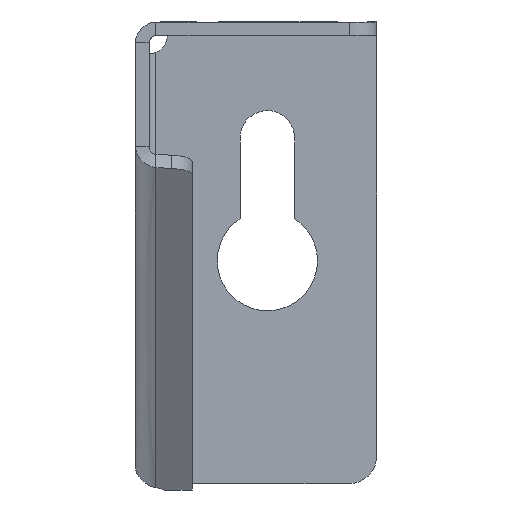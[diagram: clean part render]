
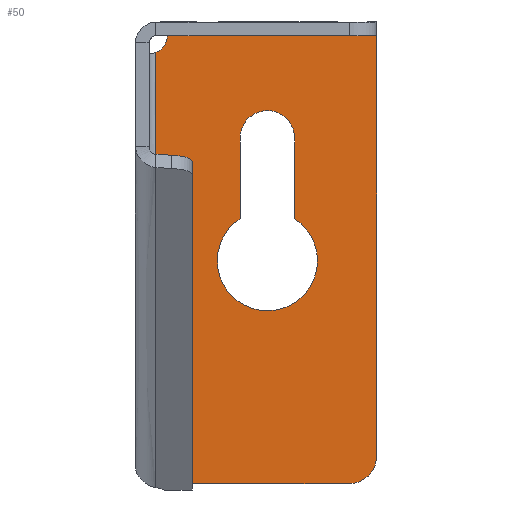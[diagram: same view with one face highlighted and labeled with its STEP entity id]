
A CAD part, front view. The second image highlights one B-rep face of the part: STEP entity #50.
In plain terms, the highlighted planar face has unit normal (0, -1, 0).
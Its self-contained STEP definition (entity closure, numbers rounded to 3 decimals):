
#17=FACE_BOUND('',#154,.T.);
#50=ADVANCED_FACE('',(#100,#17),#752,.T.);
#100=FACE_OUTER_BOUND('',#153,.T.);
#153=EDGE_LOOP('',(#330,#331,#332,#333,#334,#335,#336,#337,#338));
#154=EDGE_LOOP('',(#339,#340,#341,#342,#343));
#330=ORIENTED_EDGE('',*,*,#494,.F.);
#331=ORIENTED_EDGE('',*,*,#491,.F.);
#332=ORIENTED_EDGE('',*,*,#490,.F.);
#333=ORIENTED_EDGE('',*,*,#489,.F.);
#334=ORIENTED_EDGE('',*,*,#499,.F.);
#335=ORIENTED_EDGE('',*,*,#488,.F.);
#336=ORIENTED_EDGE('',*,*,#502,.F.);
#337=ORIENTED_EDGE('',*,*,#487,.F.);
#338=ORIENTED_EDGE('',*,*,#486,.F.);
#339=ORIENTED_EDGE('',*,*,#525,.F.);
#340=ORIENTED_EDGE('',*,*,#526,.F.);
#341=ORIENTED_EDGE('',*,*,#522,.F.);
#342=ORIENTED_EDGE('',*,*,#523,.F.);
#343=ORIENTED_EDGE('',*,*,#524,.F.);
#486=EDGE_CURVE('',#699,#700,#623,.T.);
#487=EDGE_CURVE('',#700,#701,#624,.T.);
#488=EDGE_CURVE('',#675,#668,#625,.T.);
#489=EDGE_CURVE('',#702,#703,#626,.T.);
#490=EDGE_CURVE('',#703,#704,#627,.T.);
#491=EDGE_CURVE('',#704,#705,#628,.T.);
#494=EDGE_CURVE('',#705,#699,#631,.T.);
#499=EDGE_CURVE('',#668,#702,#636,.T.);
#502=EDGE_CURVE('',#701,#675,#639,.T.);
#522=EDGE_CURVE('',#719,#720,#556,.T.);
#523=EDGE_CURVE('',#721,#719,#649,.T.);
#524=EDGE_CURVE('',#722,#721,#557,.T.);
#525=EDGE_CURVE('',#723,#722,#650,.T.);
#526=EDGE_CURVE('',#720,#723,#651,.T.);
#556=B_SPLINE_CURVE_WITH_KNOTS('',1,(#1619,#1620),.UNSPECIFIED.,.F.,.F.,
(2,2),(-8.89,0.),.UNSPECIFIED.);
#557=B_SPLINE_CURVE_WITH_KNOTS('',1,(#1626,#1627),.UNSPECIFIED.,.F.,.F.,
(2,2),(-8.89,0.),.UNSPECIFIED.);
#623=(
BOUNDED_CURVE()
B_SPLINE_CURVE(2,(#1506,#1507,#1508),.UNSPECIFIED.,.F.,.F.)
B_SPLINE_CURVE_WITH_KNOTS((3,3),(147.908,171.001),
 .UNSPECIFIED.)
CURVE()
GEOMETRIC_REPRESENTATION_ITEM()
RATIONAL_B_SPLINE_CURVE((1.,1.,1.))
REPRESENTATION_ITEM('')
);
#624=(
BOUNDED_CURVE()
B_SPLINE_CURVE(2,(#1509,#1510,#1511),.UNSPECIFIED.,.F.,.F.)
B_SPLINE_CURVE_WITH_KNOTS((3,3),(171.001,171.751),
 .UNSPECIFIED.)
CURVE()
GEOMETRIC_REPRESENTATION_ITEM()
RATIONAL_B_SPLINE_CURVE((1.,1.,1.))
REPRESENTATION_ITEM('')
);
#625=(
BOUNDED_CURVE()
B_SPLINE_CURVE(2,(#1512,#1513,#1514),.UNSPECIFIED.,.F.,.F.)
B_SPLINE_CURVE_WITH_KNOTS((3,3),(175.311,267.583),
 .UNSPECIFIED.)
CURVE()
GEOMETRIC_REPRESENTATION_ITEM()
RATIONAL_B_SPLINE_CURVE((1.,1.,1.))
REPRESENTATION_ITEM('')
);
#626=(
BOUNDED_CURVE()
B_SPLINE_CURVE(2,(#1515,#1516,#1517),.UNSPECIFIED.,.F.,.F.)
B_SPLINE_CURVE_WITH_KNOTS((3,3),(271.143,271.893),
 .UNSPECIFIED.)
CURVE()
GEOMETRIC_REPRESENTATION_ITEM()
RATIONAL_B_SPLINE_CURVE((1.,1.,1.))
REPRESENTATION_ITEM('')
);
#627=(
BOUNDED_CURVE()
B_SPLINE_CURVE(2,(#1518,#1519,#1520),.UNSPECIFIED.,.F.,.F.)
B_SPLINE_CURVE_WITH_KNOTS((3,3),(271.893,298.45),
 .UNSPECIFIED.)
CURVE()
GEOMETRIC_REPRESENTATION_ITEM()
RATIONAL_B_SPLINE_CURVE((1.,1.,1.))
REPRESENTATION_ITEM('')
);
#628=(
BOUNDED_CURVE()
B_SPLINE_CURVE(2,(#1521,#1522,#1523),.UNSPECIFIED.,.F.,.F.)
B_SPLINE_CURVE_WITH_KNOTS((3,3),(298.45,395.27),
 .UNSPECIFIED.)
CURVE()
GEOMETRIC_REPRESENTATION_ITEM()
RATIONAL_B_SPLINE_CURVE((1.,1.,1.))
REPRESENTATION_ITEM('')
);
#631=(
BOUNDED_CURVE()
B_SPLINE_CURVE(2,(#1528,#1529,#1530),.UNSPECIFIED.,.F.,.F.)
B_SPLINE_CURVE_WITH_KNOTS((3,3),(395.27,399.982),
 .UNSPECIFIED.)
CURVE()
GEOMETRIC_REPRESENTATION_ITEM()
RATIONAL_B_SPLINE_CURVE((1.,0.707,1.))
REPRESENTATION_ITEM('')
);
#636=(
BOUNDED_CURVE()
B_SPLINE_CURVE(2,(#1540,#1541,#1542,#1543,#1544),.UNSPECIFIED.,.F.,.F.)
B_SPLINE_CURVE_WITH_KNOTS((3,2,3),(267.583,267.609,271.143),
 .UNSPECIFIED.)
CURVE()
GEOMETRIC_REPRESENTATION_ITEM()
RATIONAL_B_SPLINE_CURVE((1.,1.,1.,0.831,1.))
REPRESENTATION_ITEM('')
);
#639=(
BOUNDED_CURVE()
B_SPLINE_CURVE(2,(#1552,#1553,#1554,#1555,#1556),.UNSPECIFIED.,.F.,.F.)
B_SPLINE_CURVE_WITH_KNOTS((3,2,3),(171.751,175.285,175.311),
 .UNSPECIFIED.)
CURVE()
GEOMETRIC_REPRESENTATION_ITEM()
RATIONAL_B_SPLINE_CURVE((1.,0.831,1.,1.,1.))
REPRESENTATION_ITEM('')
);
#649=(
BOUNDED_CURVE()
B_SPLINE_CURVE(2,(#1621,#1622,#1623,#1624,#1625),.UNSPECIFIED.,.F.,.F.)
B_SPLINE_CURVE_WITH_KNOTS((3,2,3),(-9.425,-4.712,0.),
 .UNSPECIFIED.)
CURVE()
GEOMETRIC_REPRESENTATION_ITEM()
RATIONAL_B_SPLINE_CURVE((1.,0.707,1.,0.707,1.))
REPRESENTATION_ITEM('')
);
#650=(
BOUNDED_CURVE()
B_SPLINE_CURVE(2,(#1628,#1629,#1630,#1631,#1632,#1633,#1634),
 .UNSPECIFIED.,.F.,.F.)
B_SPLINE_CURVE_WITH_KNOTS((3,2,2,3),(-34.558,-25.918,
-17.279,-11.868),.UNSPECIFIED.)
CURVE()
GEOMETRIC_REPRESENTATION_ITEM()
RATIONAL_B_SPLINE_CURVE((1.,0.707,1.,0.707,1.,0.879,
1.))
REPRESENTATION_ITEM('')
);
#651=(
BOUNDED_CURVE()
B_SPLINE_CURVE(2,(#1635,#1636,#1637),.UNSPECIFIED.,.F.,.F.)
B_SPLINE_CURVE_WITH_KNOTS((3,3),(-5.411,0.),.UNSPECIFIED.)
CURVE()
GEOMETRIC_REPRESENTATION_ITEM()
RATIONAL_B_SPLINE_CURVE((1.,0.879,1.))
REPRESENTATION_ITEM('')
);
#668=VERTEX_POINT('',#1218);
#675=VERTEX_POINT('',#1225);
#699=VERTEX_POINT('',#1249);
#700=VERTEX_POINT('',#1250);
#701=VERTEX_POINT('',#1251);
#702=VERTEX_POINT('',#1252);
#703=VERTEX_POINT('',#1253);
#704=VERTEX_POINT('',#1254);
#705=VERTEX_POINT('',#1255);
#719=VERTEX_POINT('',#1269);
#720=VERTEX_POINT('',#1270);
#721=VERTEX_POINT('',#1271);
#722=VERTEX_POINT('',#1272);
#723=VERTEX_POINT('',#1273);
#752=PLANE('',#882);
#882=AXIS2_PLACEMENT_3D('',#1184,#923,$);
#923=DIRECTION('',(0.,-1.,0.));
#1184=CARTESIAN_POINT('',(1.47,0.75,-54.381));
#1218=CARTESIAN_POINT('',(4.501,0.75,-63.235));
#1225=CARTESIAN_POINT('',(4.501,0.75,-108.027));
#1249=CARTESIAN_POINT('',(25.751,0.75,-110.631));
#1250=CARTESIAN_POINT('',(5.751,0.75,-110.631));
#1251=CARTESIAN_POINT('',(5.751,0.75,-109.881));
#1252=CARTESIAN_POINT('',(5.751,0.75,-61.381));
#1253=CARTESIAN_POINT('',(5.751,0.75,-60.631));
#1254=CARTESIAN_POINT('',(28.751,0.75,-60.631));
#1255=CARTESIAN_POINT('',(28.751,0.75,-107.631));
#1269=CARTESIAN_POINT('',(13.751,0.75,-72.631));
#1270=CARTESIAN_POINT('',(13.751,0.75,-81.521));
#1271=CARTESIAN_POINT('',(19.751,0.75,-72.631));
#1272=CARTESIAN_POINT('',(19.751,0.75,-81.521));
#1273=CARTESIAN_POINT('',(11.251,0.75,-86.131));
#1506=CARTESIAN_POINT('',(25.751,0.75,-110.631));
#1507=CARTESIAN_POINT('',(15.751,0.75,-110.631));
#1508=CARTESIAN_POINT('',(5.751,0.75,-110.631));
#1509=CARTESIAN_POINT('',(5.751,0.75,-110.631));
#1510=CARTESIAN_POINT('',(5.751,0.75,-110.256));
#1511=CARTESIAN_POINT('',(5.751,0.75,-109.881));
#1512=CARTESIAN_POINT('',(4.501,0.75,-108.027));
#1513=CARTESIAN_POINT('',(4.501,0.75,-85.631));
#1514=CARTESIAN_POINT('',(4.501,0.75,-63.235));
#1515=CARTESIAN_POINT('',(5.751,0.75,-61.381));
#1516=CARTESIAN_POINT('',(5.751,0.75,-61.006));
#1517=CARTESIAN_POINT('',(5.751,0.75,-60.631));
#1518=CARTESIAN_POINT('',(5.751,0.75,-60.631));
#1519=CARTESIAN_POINT('',(17.251,0.75,-60.631));
#1520=CARTESIAN_POINT('',(28.751,0.75,-60.631));
#1521=CARTESIAN_POINT('',(28.751,0.75,-60.631));
#1522=CARTESIAN_POINT('',(28.751,0.75,-84.131));
#1523=CARTESIAN_POINT('',(28.751,0.75,-107.631));
#1528=CARTESIAN_POINT('',(28.751,0.75,-107.631));
#1529=CARTESIAN_POINT('',(28.751,0.75,-110.631));
#1530=CARTESIAN_POINT('',(25.751,0.75,-110.631));
#1540=CARTESIAN_POINT('',(4.501,0.75,-63.235));
#1541=CARTESIAN_POINT('',(4.509,0.75,-63.232));
#1542=CARTESIAN_POINT('',(4.516,0.75,-63.229));
#1543=CARTESIAN_POINT('',(5.751,0.75,-62.717));
#1544=CARTESIAN_POINT('',(5.751,0.75,-61.381));
#1552=CARTESIAN_POINT('',(5.751,0.75,-109.881));
#1553=CARTESIAN_POINT('',(5.751,0.75,-108.545));
#1554=CARTESIAN_POINT('',(4.516,0.75,-108.033));
#1555=CARTESIAN_POINT('',(4.509,0.75,-108.03));
#1556=CARTESIAN_POINT('',(4.501,0.75,-108.027));
#1619=CARTESIAN_POINT('',(13.751,0.75,-72.631));
#1620=CARTESIAN_POINT('',(13.751,0.75,-81.521));
#1621=CARTESIAN_POINT('',(19.751,0.75,-72.631));
#1622=CARTESIAN_POINT('',(19.751,0.75,-69.631));
#1623=CARTESIAN_POINT('',(16.751,0.75,-69.631));
#1624=CARTESIAN_POINT('',(13.751,0.75,-69.631));
#1625=CARTESIAN_POINT('',(13.751,0.75,-72.631));
#1626=CARTESIAN_POINT('',(19.751,0.75,-81.521));
#1627=CARTESIAN_POINT('',(19.751,0.75,-72.631));
#1628=CARTESIAN_POINT('',(11.251,0.75,-86.131));
#1629=CARTESIAN_POINT('',(11.251,0.75,-91.631));
#1630=CARTESIAN_POINT('',(16.751,0.75,-91.631));
#1631=CARTESIAN_POINT('',(22.251,0.75,-91.631));
#1632=CARTESIAN_POINT('',(22.251,0.75,-86.131));
#1633=CARTESIAN_POINT('',(22.251,0.75,-83.148));
#1634=CARTESIAN_POINT('',(19.751,0.75,-81.521));
#1635=CARTESIAN_POINT('',(13.751,0.75,-81.521));
#1636=CARTESIAN_POINT('',(11.251,0.75,-83.148));
#1637=CARTESIAN_POINT('',(11.251,0.75,-86.131));
